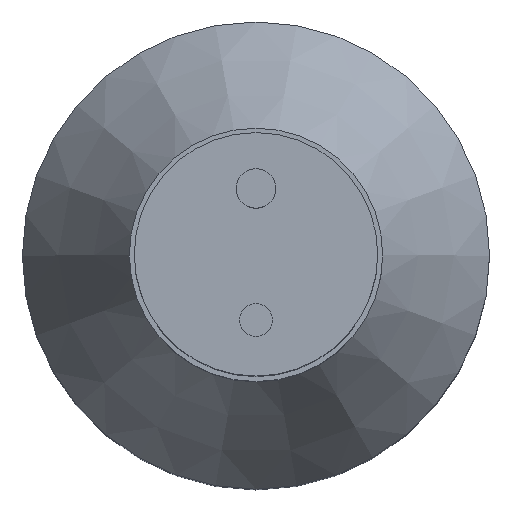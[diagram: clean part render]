
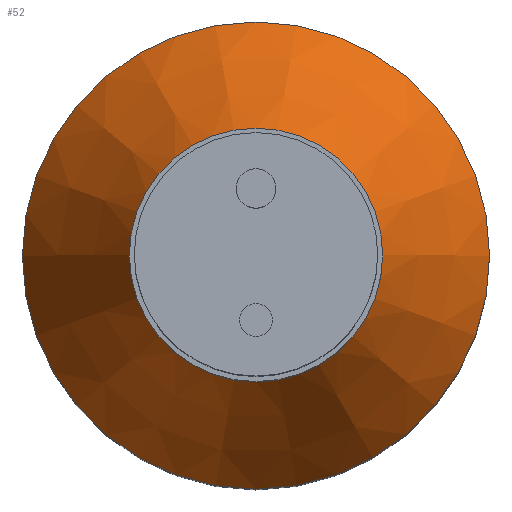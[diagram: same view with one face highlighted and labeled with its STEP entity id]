
A CAD part, top view. The second image highlights one B-rep face of the part: STEP entity #52.
In plain terms, the highlighted conical face has half-angle 30.129 degrees and reference radius 38.5 mm.
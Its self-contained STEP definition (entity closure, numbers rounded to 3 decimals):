
#52 = ADVANCED_FACE( '', ( #110, #111 ), #112, .T. );
#110 = FACE_OUTER_BOUND( '', #172, .T. );
#111 = FACE_BOUND( '', #173, .T. );
#112 = CONICAL_SURFACE( '', #174, 38.5, 0.526 );
#172 = EDGE_LOOP( '', ( #276 ) );
#173 = EDGE_LOOP( '', ( #277 ) );
#174 = AXIS2_PLACEMENT_3D( '', #278, #279, #280 );
#276 = ORIENTED_EDGE( '', *, *, #328, .T. );
#277 = ORIENTED_EDGE( '', *, *, #330, .F. );
#278 = CARTESIAN_POINT( '', ( 0., 0., 196. ) );
#279 = DIRECTION( '', ( 0., 0., -1. ) );
#280 = DIRECTION( '', ( -1., 0., 0. ) );
#328 = EDGE_CURVE( '', #364, #364, #365, .T. );
#330 = EDGE_CURVE( '', #367, #367, #368, .T. );
#364 = VERTEX_POINT( '', #404 );
#365 = CIRCLE( '', #405, 71. );
#367 = VERTEX_POINT( '', #407 );
#368 = CIRCLE( '', #408, 38.5 );
#404 = CARTESIAN_POINT( '', ( 71., 0., 140. ) );
#405 = AXIS2_PLACEMENT_3D( '', #446, #447, #448 );
#407 = CARTESIAN_POINT( '', ( 38.5, 0., 196. ) );
#408 = AXIS2_PLACEMENT_3D( '', #449, #450, #451 );
#446 = CARTESIAN_POINT( '', ( 0., 0., 140. ) );
#447 = DIRECTION( '', ( 0., 0., 1. ) );
#448 = DIRECTION( '', ( 1., 0., 0. ) );
#449 = CARTESIAN_POINT( '', ( 0., 0., 196. ) );
#450 = DIRECTION( '', ( 0., 0., 1. ) );
#451 = DIRECTION( '', ( 1., 0., 0. ) );
